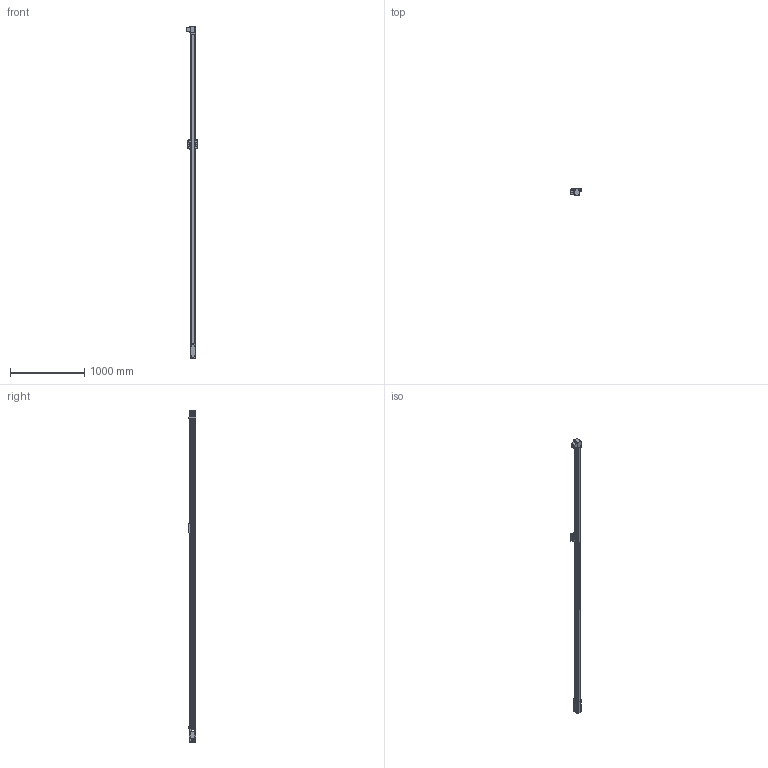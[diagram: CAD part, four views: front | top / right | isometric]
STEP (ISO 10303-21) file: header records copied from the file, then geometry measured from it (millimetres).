
FILE_DESCRIPTION (( 'STEP AP203' ), '1' );
FILE_NAME ('BLSL4080A-4000-RH.STEP', '2025-02-04T08:38:57', ( '' ), ( '' ), 'SwSTEP 2.0', 'SolidWorks 2019', '' );
FILE_SCHEMA (( 'CONFIG_CONTROL_DESIGN' ));
Length unit declared in the file: millimetre
Products named in the file (18): プロファイル; 駆動ケース; テンション部側面; モーター取付カップ; BLSL4080A-4000-RH; キャリッジプレート; TR12-10; テンション部上面プレート; テンション部底面プレート; ストッパー; シャフト; テンション部スライド固定; 連結プレート; テンション部スライド; カバー; ローラーカバー; 駆動軸; テンション部端面
Assembly tree (28 placements, depth 2):
  BLSL4080A-4000-RH
    プロファイル
    テンション部側面  x2
    テンション部端面
    テンション部スライド  x2
    テンション部スライド固定
    テンション部上面プレート
    テンション部底面プレート
    連結プレート  x2
    シャフト  x2
    キャリッジプレート
    TR12-10  x4
    カバー
    ストッパー  x2
    駆動ケース
    駆動軸
    モーター取付カップ
    ローラーカバー  x4
Bounding box: 151.95 x 98 x 4465 mm (x, y, z)
Volume: 9529046.6 mm3; surface area: 3237496.9 mm2
Topology: 28 solids, 30 shells, 975 faces, 2348 edges, 1463 vertices
Faces by surface type: plane 409, cylinder 390, cone 160, torus 16
Entity records: 21268 total; most frequent: CARTESIAN_POINT 3615, DIRECTION 3407, ORIENTED_EDGE 3012, EDGE_CURVE 1506, AXIS2_PLACEMENT_3D 1254, VERTEX_POINT 967, VECTOR 899, LINE 899
